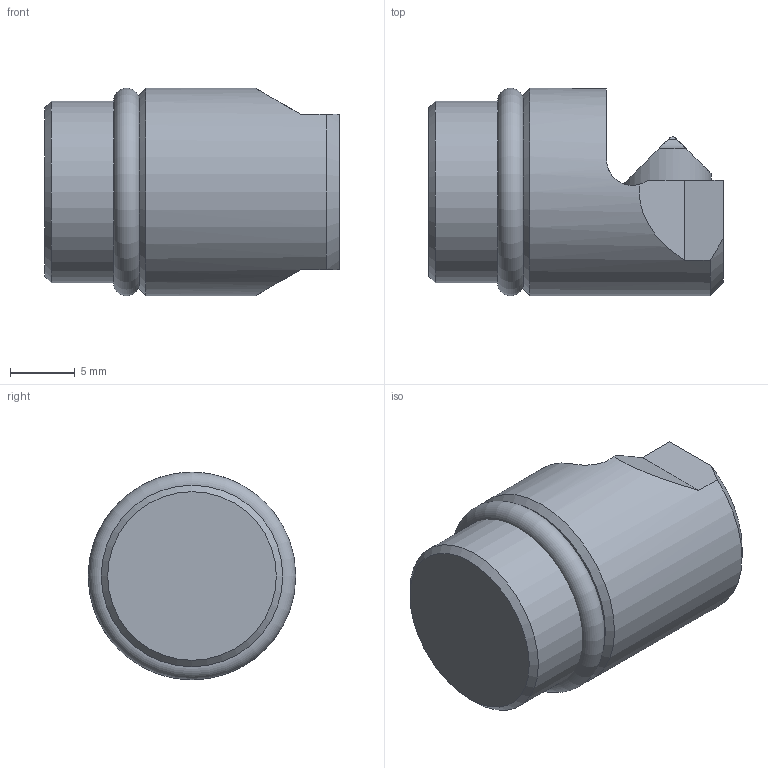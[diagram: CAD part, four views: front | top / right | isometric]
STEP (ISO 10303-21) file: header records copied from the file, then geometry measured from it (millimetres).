
FILE_DESCRIPTION (( 'STEP AP214' ), '1' );
FILE_NAME ('6921884036841.STEP', '2020-11-27T07:56:41', ( '' ), ( '' ), 'SwSTEP 2.0', 'SolidWorks 2018', '' );
FILE_SCHEMA (( 'AUTOMOTIVE_DESIGN' ));
Length unit declared in the file: millimetre
Products named in the file (1): 6921884036841
Bounding box: 22.7 x 16 x 16 mm (x, y, z)
Volume: 3483.1 mm3; surface area: 1981.8 mm2
Topology: 3 solids, 3 shells, 40 faces, 103 edges, 68 vertices
Faces by surface type: cylinder 19, plane 13, cone 6, torus 2
Full cylindrical faces by diameter (mm): 7 x1, 7.1 x1, 12 x1, 14 x1, 16 x1
Entity records: 1398 total; most frequent: CARTESIAN_POINT 383, ORIENTED_EDGE 170, DIRECTION 140, EDGE_CURVE 85, VERTEX_POINT 62, AXIS2_PLACEMENT_3D 57, EDGE_LOOP 51, FACE_OUTER_BOUND 45
